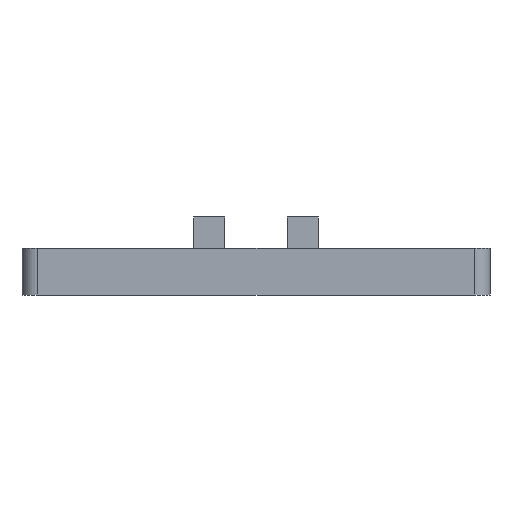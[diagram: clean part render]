
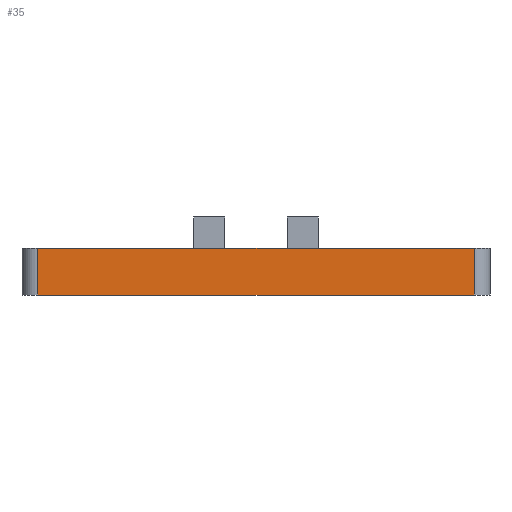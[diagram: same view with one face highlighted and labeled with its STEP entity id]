
A CAD part, front view. The second image highlights one B-rep face of the part: STEP entity #35.
In plain terms, the highlighted planar face has unit normal (0, -1, 0).
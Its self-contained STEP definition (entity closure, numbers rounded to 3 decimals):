
#35 = ADVANCED_FACE('',(#36),#50,.T.);
#36 = FACE_BOUND('',#37,.T.);
#37 = EDGE_LOOP('',(#38,#73,#101,#129));
#38 = ORIENTED_EDGE('',*,*,#39,.T.);
#39 = EDGE_CURVE('',#40,#42,#44,.T.);
#40 = VERTEX_POINT('',#41);
#41 = CARTESIAN_POINT('',(24.,-50.,-28.));
#42 = VERTEX_POINT('',#43);
#43 = CARTESIAN_POINT('',(30.,-50.,-28.));
#44 = SURFACE_CURVE('',#45,(#49,#61),.PCURVE_S1.);
#45 = LINE('',#46,#47);
#46 = CARTESIAN_POINT('',(24.,-50.,-28.));
#47 = VECTOR('',#48,1.);
#48 = DIRECTION('',(1.,0.,0.));
#49 = PCURVE('',#50,#55);
#50 = PLANE('',#51);
#51 = AXIS2_PLACEMENT_3D('',#52,#53,#54);
#52 = CARTESIAN_POINT('',(24.,-50.,-28.));
#53 = DIRECTION('',(0.,-1.,0.));
#54 = DIRECTION('',(0.,0.,1.));
#55 = DEFINITIONAL_REPRESENTATION('',(#56),#60);
#56 = LINE('',#57,#58);
#57 = CARTESIAN_POINT('',(0.,0.));
#58 = VECTOR('',#59,1.);
#59 = DIRECTION('',(0.,-1.));
#60 = ( GEOMETRIC_REPRESENTATION_CONTEXT(2) 
PARAMETRIC_REPRESENTATION_CONTEXT() REPRESENTATION_CONTEXT('2D SPACE',''
  ) );
#61 = PCURVE('',#62,#67);
#62 = CYLINDRICAL_SURFACE('',#63,2.);
#63 = AXIS2_PLACEMENT_3D('',#64,#65,#66);
#64 = CARTESIAN_POINT('',(24.,-48.,-28.));
#65 = DIRECTION('',(-1.,0.,0.));
#66 = DIRECTION('',(0.,-1.,0.));
#67 = DEFINITIONAL_REPRESENTATION('',(#68),#72);
#68 = LINE('',#69,#70);
#69 = CARTESIAN_POINT('',(6.283,0.));
#70 = VECTOR('',#71,1.);
#71 = DIRECTION('',(0.,-1.));
#72 = ( GEOMETRIC_REPRESENTATION_CONTEXT(2) 
PARAMETRIC_REPRESENTATION_CONTEXT() REPRESENTATION_CONTEXT('2D SPACE',''
  ) );
#73 = ORIENTED_EDGE('',*,*,#74,.T.);
#74 = EDGE_CURVE('',#42,#75,#77,.T.);
#75 = VERTEX_POINT('',#76);
#76 = CARTESIAN_POINT('',(30.,-50.,28.));
#77 = SURFACE_CURVE('',#78,(#82,#89),.PCURVE_S1.);
#78 = LINE('',#79,#80);
#79 = CARTESIAN_POINT('',(30.,-50.,0.));
#80 = VECTOR('',#81,1.);
#81 = DIRECTION('',(0.,0.,1.));
#82 = PCURVE('',#50,#83);
#83 = DEFINITIONAL_REPRESENTATION('',(#84),#88);
#84 = LINE('',#85,#86);
#85 = CARTESIAN_POINT('',(28.,-6.));
#86 = VECTOR('',#87,1.);
#87 = DIRECTION('',(1.,0.));
#88 = ( GEOMETRIC_REPRESENTATION_CONTEXT(2) 
PARAMETRIC_REPRESENTATION_CONTEXT() REPRESENTATION_CONTEXT('2D SPACE',''
  ) );
#89 = PCURVE('',#90,#95);
#90 = PLANE('',#91);
#91 = AXIS2_PLACEMENT_3D('',#92,#93,#94);
#92 = CARTESIAN_POINT('',(30.,0.,0.));
#93 = DIRECTION('',(1.,0.,0.));
#94 = DIRECTION('',(0.,1.,0.));
#95 = DEFINITIONAL_REPRESENTATION('',(#96),#100);
#96 = LINE('',#97,#98);
#97 = CARTESIAN_POINT('',(-50.,0.));
#98 = VECTOR('',#99,1.);
#99 = DIRECTION('',(0.,1.));
#100 = ( GEOMETRIC_REPRESENTATION_CONTEXT(2) 
PARAMETRIC_REPRESENTATION_CONTEXT() REPRESENTATION_CONTEXT('2D SPACE',''
  ) );
#101 = ORIENTED_EDGE('',*,*,#102,.F.);
#102 = EDGE_CURVE('',#103,#75,#105,.T.);
#103 = VERTEX_POINT('',#104);
#104 = CARTESIAN_POINT('',(24.,-50.,28.));
#105 = SURFACE_CURVE('',#106,(#110,#117),.PCURVE_S1.);
#106 = LINE('',#107,#108);
#107 = CARTESIAN_POINT('',(24.,-50.,28.));
#108 = VECTOR('',#109,1.);
#109 = DIRECTION('',(1.,0.,0.));
#110 = PCURVE('',#50,#111);
#111 = DEFINITIONAL_REPRESENTATION('',(#112),#116);
#112 = LINE('',#113,#114);
#113 = CARTESIAN_POINT('',(56.,0.));
#114 = VECTOR('',#115,1.);
#115 = DIRECTION('',(0.,-1.));
#116 = ( GEOMETRIC_REPRESENTATION_CONTEXT(2) 
PARAMETRIC_REPRESENTATION_CONTEXT() REPRESENTATION_CONTEXT('2D SPACE',''
  ) );
#117 = PCURVE('',#118,#123);
#118 = CYLINDRICAL_SURFACE('',#119,2.);
#119 = AXIS2_PLACEMENT_3D('',#120,#121,#122);
#120 = CARTESIAN_POINT('',(24.,-48.,28.));
#121 = DIRECTION('',(-1.,0.,0.));
#122 = DIRECTION('',(0.,-1.,0.));
#123 = DEFINITIONAL_REPRESENTATION('',(#124),#128);
#124 = LINE('',#125,#126);
#125 = CARTESIAN_POINT('',(0.,0.));
#126 = VECTOR('',#127,1.);
#127 = DIRECTION('',(0.,-1.));
#128 = ( GEOMETRIC_REPRESENTATION_CONTEXT(2) 
PARAMETRIC_REPRESENTATION_CONTEXT() REPRESENTATION_CONTEXT('2D SPACE',''
  ) );
#129 = ORIENTED_EDGE('',*,*,#130,.F.);
#130 = EDGE_CURVE('',#40,#103,#131,.T.);
#131 = SURFACE_CURVE('',#132,(#136,#143),.PCURVE_S1.);
#132 = LINE('',#133,#134);
#133 = CARTESIAN_POINT('',(24.,-50.,0.));
#134 = VECTOR('',#135,1.);
#135 = DIRECTION('',(0.,0.,1.));
#136 = PCURVE('',#50,#137);
#137 = DEFINITIONAL_REPRESENTATION('',(#138),#142);
#138 = LINE('',#139,#140);
#139 = CARTESIAN_POINT('',(28.,0.));
#140 = VECTOR('',#141,1.);
#141 = DIRECTION('',(1.,0.));
#142 = ( GEOMETRIC_REPRESENTATION_CONTEXT(2) 
PARAMETRIC_REPRESENTATION_CONTEXT() REPRESENTATION_CONTEXT('2D SPACE',''
  ) );
#143 = PCURVE('',#144,#149);
#144 = PLANE('',#145);
#145 = AXIS2_PLACEMENT_3D('',#146,#147,#148);
#146 = CARTESIAN_POINT('',(24.,0.,0.));
#147 = DIRECTION('',(1.,0.,0.));
#148 = DIRECTION('',(0.,1.,0.));
#149 = DEFINITIONAL_REPRESENTATION('',(#150),#154);
#150 = LINE('',#151,#152);
#151 = CARTESIAN_POINT('',(-50.,0.));
#152 = VECTOR('',#153,1.);
#153 = DIRECTION('',(0.,1.));
#154 = ( GEOMETRIC_REPRESENTATION_CONTEXT(2) 
PARAMETRIC_REPRESENTATION_CONTEXT() REPRESENTATION_CONTEXT('2D SPACE',''
  ) );
